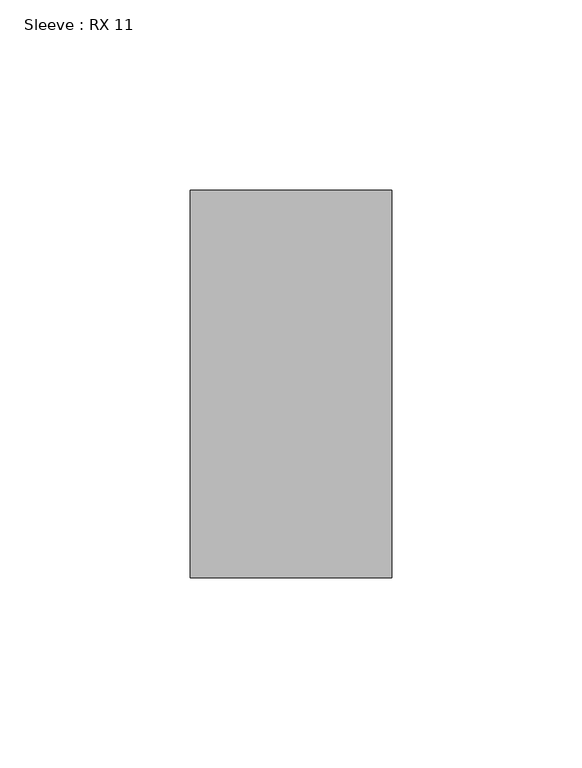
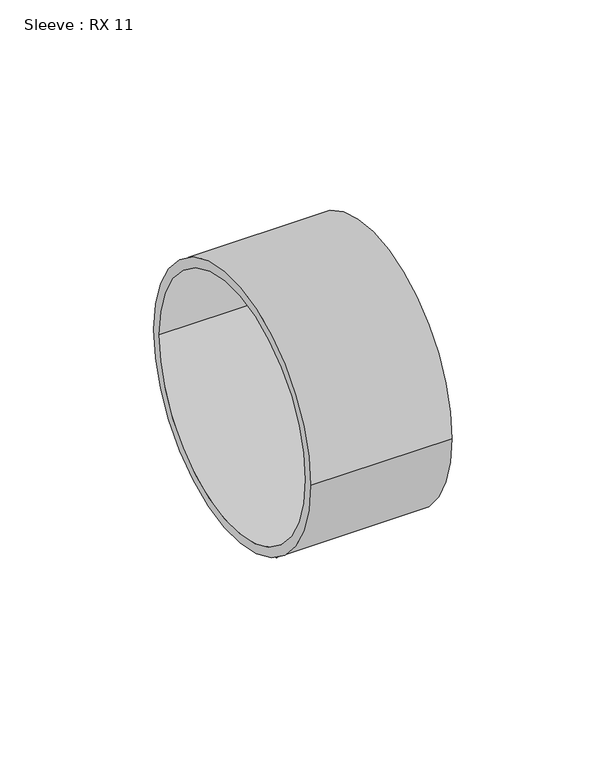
"""IFC4 building model written with IfcOpenShell, lengths in millimetres: pipe fitting geometry, Sleeve : RX 11."""

from ifc_helpers import new_model, si_unit, point, frame, origin, origin_2d, place, context, project, spatial, circle_curve, trimmed, segment, composite_curve, outline, extrude, source, transform, mapped, element, save


def sleeve_rx_11_7b1edd19(model_context):
    return source(origin(), model_context, "Body", "SweptSolid", [
        extrude(outline(composite_curve([segment(trimmed(circle_curve(origin_2d(), 51.0), [point((-51.0, 0.0))], [point((51.0, 0.0))], False, "CARTESIAN"), True, "CONTINUOUS"), segment(trimmed(circle_curve(origin_2d(), 51.0), [point((51.0, 0.0))], [point((-51.0, 0.0))], False, "CARTESIAN"), True, "CONTINUOUS")], self_intersect=False), holes=[composite_curve([segment(trimmed(circle_curve(origin_2d(), 47.4), [point((-47.4, 0.0))], [point((47.4, 0.0))], True, "CARTESIAN"), True, "CONTINUOUS"), segment(trimmed(circle_curve(origin_2d(), 47.4), [point((47.4, 0.0))], [point((-47.4, 0.0))], True, "CARTESIAN"), True, "CONTINUOUS")], self_intersect=False)]), frame((0.0, 0.0, 0.0), z_axis=(1.0, 0.0, 0.0), x_axis=(0.0, 1.0, 0.0)), (0.0, 0.0, 1.0), 53.0),
    ])


if __name__ == "__main__":
    model = new_model("IFC4")
    model_context = context("Model", 3, world=origin())
    ifc_project = project(units=[si_unit("LENGTHUNIT", "METRE", prefix="MILLI")], contexts=[model_context])
    site = spatial("IfcSite", under=ifc_project)
    building = spatial("IfcBuilding", under=site)
    placement = place(None, origin())
    sleeve_rx_11_shape = sleeve_rx_11_7b1edd19(model_context)
    element("IfcPipeFitting", 1, ObjectType="Sleeve : RX 11", at=placement, inside=building, context=model_context, shape_type="MappedRepresentation", body=[
        mapped(sleeve_rx_11_shape, transform((0.0, 0.0, 0.0), x_axis=(1.0, 0.0, 0.0), y_axis=(0.0, 1.0, 0.0), z_axis=(0.0, 0.0, 1.0))),
    ])
    save(model, "model.ifc")
